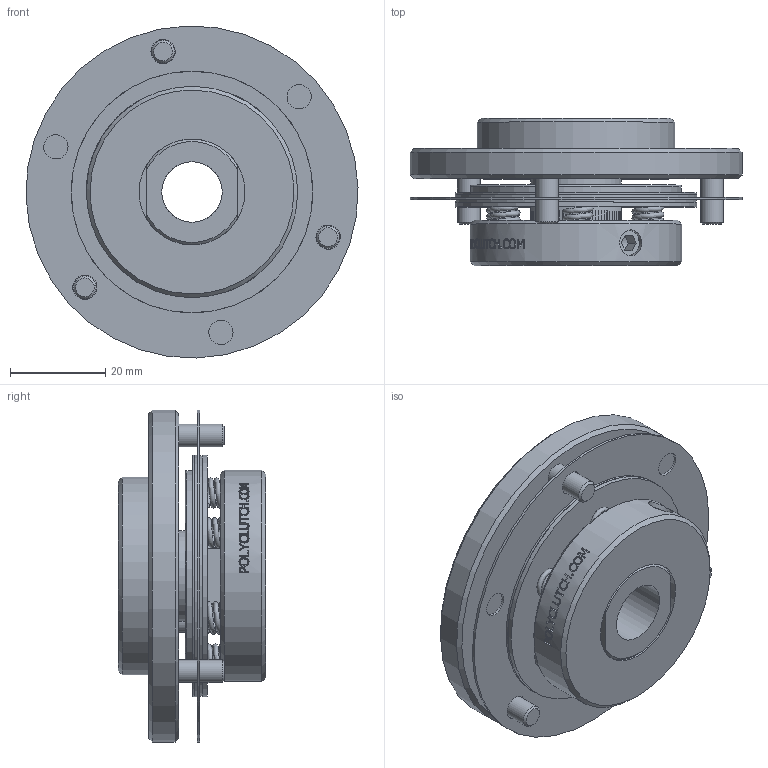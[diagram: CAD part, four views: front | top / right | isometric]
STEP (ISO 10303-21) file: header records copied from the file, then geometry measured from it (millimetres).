
FILE_DESCRIPTION((''),'2;1');
FILE_NAME('P:\Public\Organized 3D Clutch Assembly Files - Jessica\Slippers\Single Plate\Size 44\PFO44.stp','2013-01-31T14:25:13',('TodLob'),(''),'Autodesk Inventor 2011','Autodesk Inventor 2011','');
FILE_SCHEMA(('AUTOMOTIVE_DESIGN { 1 0 10303 214 1 1 1 1 }'));
Length unit declared in the file: inch
Products named in the file (13): PFO44; P3212; S4417-9F; S4419; S4415; S4413; S4414F COMPRESSED; S4421; S4438; P4409; P3223; Type A - Hexagon Socket Set Screw - Cup Point - Inch 1/4-28 UNF x 0.38; 8-10-8
Assembly tree (21 placements, depth 2):
  PFO44
    P3212
    S4417-9F
    S4419
    S4415
    S4413
    S4414F COMPRESSED  x6
    S4421  x2
    S4438
    P4409
    P3223  x3
    Type A - Hexagon Socket Set Screw - Cup Point - Inch 1/4-28 UNF x 0.38  x2
    8-10-8
Bounding box: 69.82 x 30.96 x 69.82 mm (x, y, z)
Volume: 52949.4 mm3; surface area: 46497.4 mm2
Topology: 21 solids, 21 shells, 688 faces, 1704 edges, 1072 vertices
Faces by surface type: plane 479, bspline 106, cylinder 67, cone 34, torus 2
Full cylindrical faces by diameter (mm): 4.75 x3, 4.763 x3, 5.105 x6, 5.41 x2, 6.35 x2, 6.528 x9, 12.7 x2, 15.875 x2, 19.05 x1, 19.075 x1, 22.276 x1, 22.352 x2, 24.206 x1, 41.529 x1, 44.45 x2, 50.8 x4, 69.85 x2
Entity records: 44388 total; most frequent: CARTESIAN_POINT 29319, ORIENTED_EDGE 3106, DIRECTION 2768, EDGE_CURVE 1553, VERTEX_POINT 1018, AXIS2_PLACEMENT_3D 925, VECTOR 918, LINE 918
